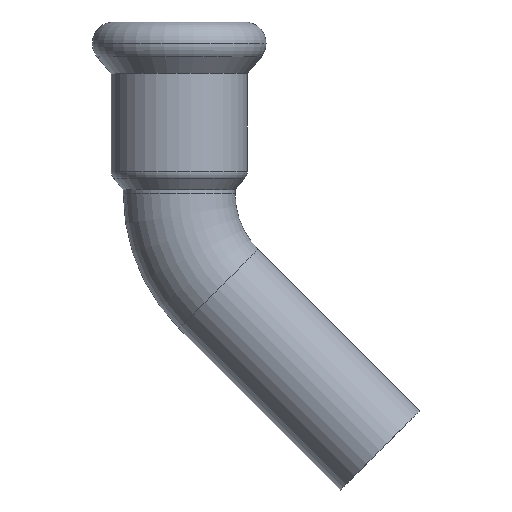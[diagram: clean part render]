
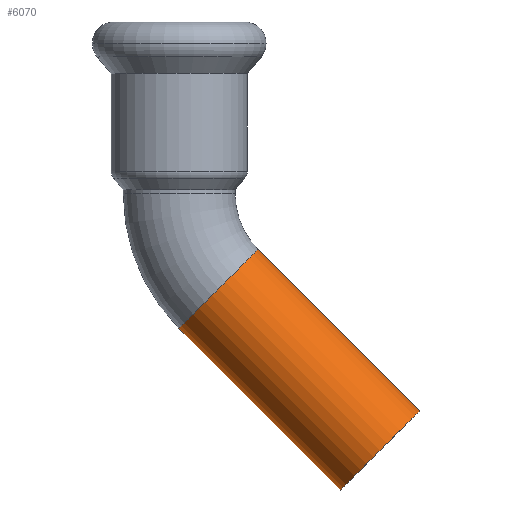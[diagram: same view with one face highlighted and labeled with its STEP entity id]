
A CAD part, top view. The second image highlights one B-rep face of the part: STEP entity #6070.
In plain terms, the highlighted cylindrical face has radius 7.5 mm (diameter 15 mm), a partial arc.
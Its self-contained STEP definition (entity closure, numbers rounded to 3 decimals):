
#60=CARTESIAN_POINT('',(-69.252,3.968,0.));
#70=DIRECTION('',(-0.707,0.707,0.));
#80=DIRECTION('',(-0.707,-0.707,0.));
#90=AXIS2_PLACEMENT_3D('',#60,#70,#80);
#100=CIRCLE('',#90,7.5);
#110=CARTESIAN_POINT('',(-74.555,-1.335,0.));
#120=VERTEX_POINT('',#110);
#130=CARTESIAN_POINT('',(-63.949,9.271,
0.));
#140=VERTEX_POINT('',#130);
#150=EDGE_CURVE('',#120,#140,#100,.T.);
#4120=CARTESIAN_POINT('',(-90.921,25.637,0.));
#4130=DIRECTION('',(-0.707,0.707,0.));
#4140=DIRECTION('',(-0.707,-0.707,0.));
#4150=AXIS2_PLACEMENT_3D('',#4120,#4130,#4140);
#4160=CYLINDRICAL_SURFACE('',#4150,7.5);
#4170=CARTESIAN_POINT('',(-85.617,30.94,
0.));
#4180=DIRECTION('',(-0.707,0.707,0.));
#4190=VECTOR('',#4180,1.);
#4200=LINE('',#4170,#4190);
#4210=CARTESIAN_POINT('',(-85.617,30.94,
0.));
#4220=VERTEX_POINT('',#4210);
#4230=EDGE_CURVE('',#140,#4220,#4200,.T.);
#4250=CARTESIAN_POINT('',(-90.921,25.637,0.));
#4260=DIRECTION('',(0.707,-0.707,0.));
#4270=DIRECTION('',(-0.707,-0.707,0.));
#4280=AXIS2_PLACEMENT_3D('',#4250,#4260,#4270);
#4290=CIRCLE('',#4280,7.5);
#4300=CARTESIAN_POINT('',(-96.224,20.333,0.));
#4310=VERTEX_POINT('',#4300);
#4340=CARTESIAN_POINT('',(-96.224,20.333,0.));
#4350=DIRECTION('',(-0.707,0.707,0.));
#4360=VECTOR('',#4350,1.);
#4370=LINE('',#4340,#4360);
#4380=EDGE_CURVE('',#120,#4310,#4370,.T.);
#5270=EDGE_CURVE('',#4220,#4310,#4290,.T.);
#6010=ORIENTED_EDGE('',*,*,#4230,.T.);
#6020=ORIENTED_EDGE('',*,*,#150,.T.);
#6030=ORIENTED_EDGE('',*,*,#4380,.F.);
#6040=ORIENTED_EDGE('',*,*,#5270,.T.);
#6050=EDGE_LOOP('',(#6040,#6030,#6020,#6010));
#6060=FACE_OUTER_BOUND('',#6050,.T.);
#6070=ADVANCED_FACE('',(#6060),#4160,.T.);
